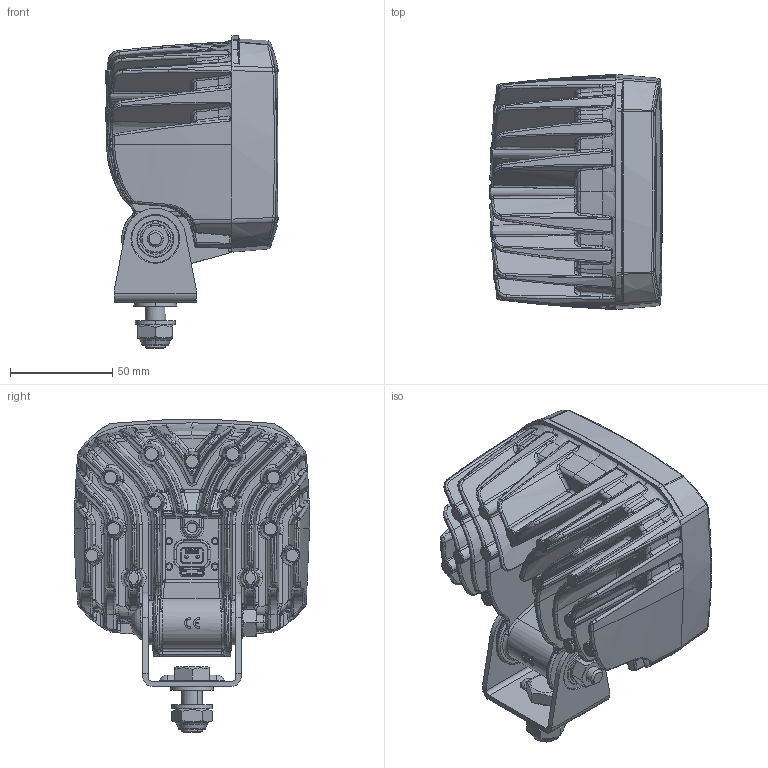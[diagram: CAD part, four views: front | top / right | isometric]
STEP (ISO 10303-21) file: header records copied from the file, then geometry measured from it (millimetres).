
FILE_DESCRIPTION(('CATIA V5 STEP Exchange','CAx-IF Rec.Pracs.--- Model Styling and Organization---1.5--- 2016-08-15','CAx-IF Rec.Pracs.---Supplemental Geometry---1.0---2011-11-01','CAx-IF Rec.Pracs.--- Composite Materials ---1.1---2010-07-15'),'2;1');
FILE_NAME('E:\tmp\ddx\2011218\HELLA_3D_data_Ultra_Beam_LED_Gen_2_Bracket_width_42_mm_1GA-995-606-00.stp','2022-01-18T07:24:31+00:00',('none'),('none'),'CATIA Version 5-6 Release 2020 SP3 HF9','CATIA V5 STEP AP214 Edition 3 v2','none');
FILE_SCHEMA(('AUTOMOTIVE_DESIGN { 1 0 10303 214 3 1 1 1 }'));
Length unit declared in the file: millimetre
Products named in the file (1): 10001520315_D10_001
Bounding box: 84.48 x 115 x 152.84 mm (x, y, z)
Volume: 614442.3 mm3; surface area: 120524.5 mm2
Topology: 2 solids, 3 shells, 2979 faces, 8252 edges, 4905 vertices
Faces by surface type: bspline 1252, plane 834, cylinder 233, torus 186, cone 177, extrusion 171, revolution 69, sphere 57
Entity records: 172346 total; most frequent: CARTESIAN_POINT 112479, ORIENTED_EDGE 16288, EDGE_CURVE 8144, DIRECTION 5872, VERTEX_POINT 4905, B_SPLINE_CURVE_WITH_KNOTS 4837, EDGE_LOOP 3039, ADVANCED_FACE 2979
